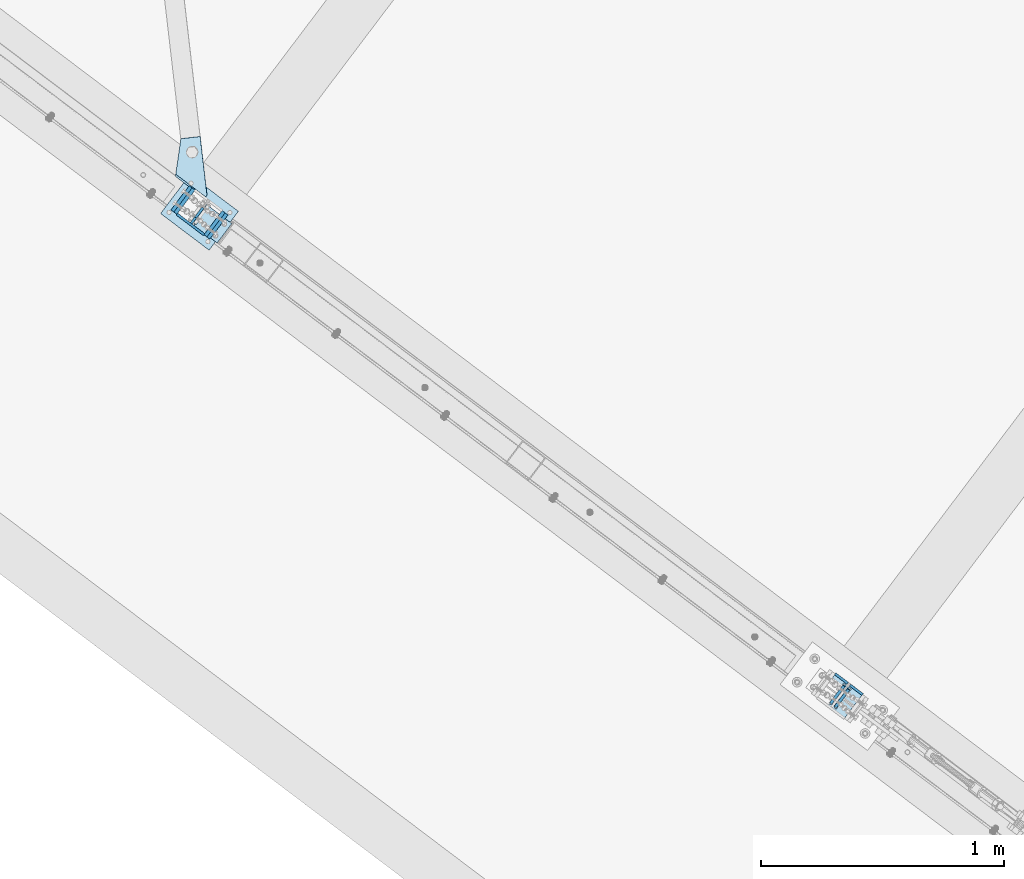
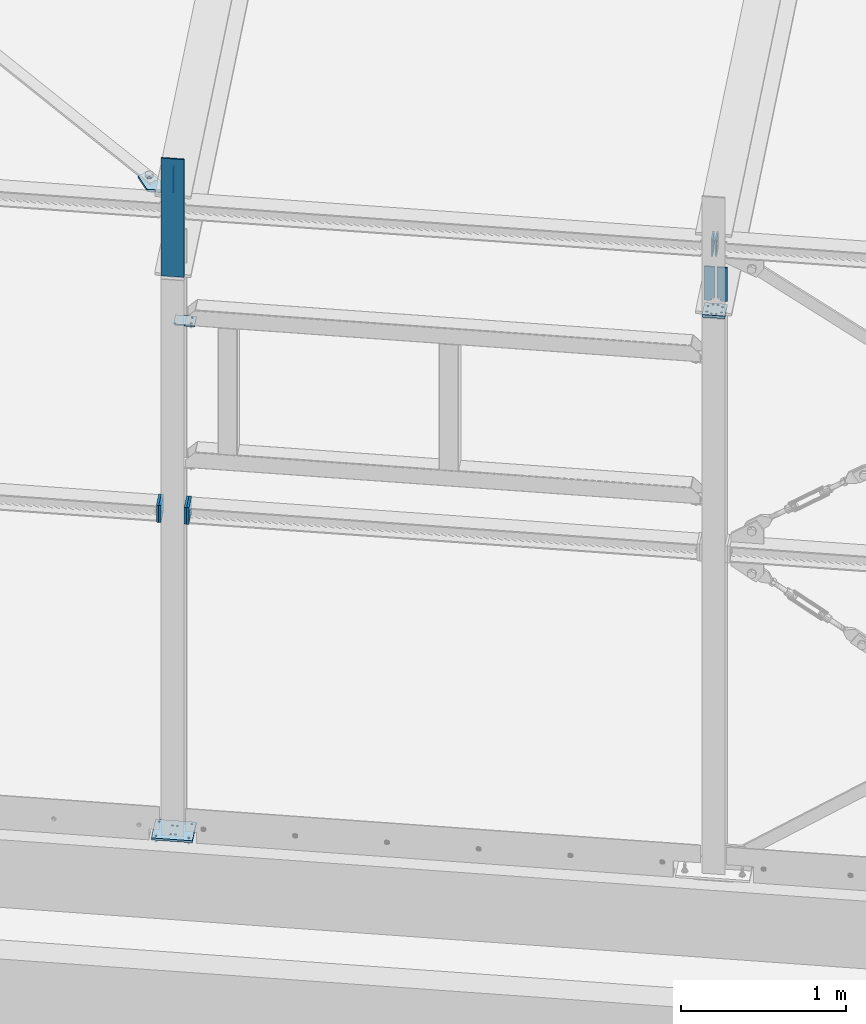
# One storey, part 50 of 476: 14 plates, 56 openings.
"""IFC2X3 building model written with IfcOpenShell, lengths in millimetres."""

from ifc_helpers import new_model, entity, si_unit, converted_unit, point, frame, frame_2d, origin, origin_with_axes, origin_2d_with_axis, place, context, project, spatial, polyline, circle_curve, line_curve, trimmed, segment, composite_curve, circle, outline, extrude, material, layer, layer_set, element, save


model = new_model("IFC2X3")

# Units and contexts
model_context = context("Model", 3, precision=1e-09, world=origin_with_axes())
ifc_project = project(units=[si_unit("LENGTHUNIT", "METRE", prefix="MILLI"), si_unit("AREAUNIT", "SQUARE_METRE"), si_unit("VOLUMEUNIT", "CUBIC_METRE"), converted_unit("PLANEANGLEUNIT", "DEGREE", entity("IfcPlaneAngleMeasure", 0.01745329), si_unit("PLANEANGLEUNIT", "RADIAN"), dimensions=[0, 0, 0, 0, 0, 0, 0])], contexts=[model_context])

# Site, building, storey
site_placement = place(None, origin_with_axes())
site = spatial("IfcSite", under=ifc_project, at=site_placement, Name="mKR Teilneubau & Sanierung BA1 - Ostfildern", CompositionType="ELEMENT")
building_placement = place(site_placement, origin_with_axes())
building = spatial("IfcBuilding", under=site, at=building_placement, Name="Struktur 1", CompositionType="ELEMENT")
storey_placement = place(building_placement, origin_with_axes())
storey = spatial("IfcBuildingStorey", under=building, at=storey_placement, Name="Default Storey", CompositionType="ELEMENT", Elevation=0.0)

# Plate, openings
ifc_material = material(Name="S235JR")
ifc_layer_1 = layer(ifc_material, 15.0)
ifc_layer_set_1 = layer_set([ifc_layer_1], Name="S235JR")
plate_1_placement = place(None, frame((2899.091449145, -1897.543749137, 5216.096648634), z_axis=(-0.018098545, -0.02396011, 0.999549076), x_axis=(0.602462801, 0.797581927, 0.030027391)))
plate_1 = element("IfcPlate", 1, at=plate_1_placement, inside=storey, material=ifc_layer_set_1, Name="-", ObjectType="-", context=model_context, shape_type="SweptSolid", body=[
    extrude(outline(polyline([(0.0, 0.0), (16.761939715, 0.0), (192.636873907, 167.974256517), (137.382787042, 225.827096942), (1.572e-05, 149.999963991), (0.0, 0.0)])), origin_with_axes(), (0.0, 0.0, -1.0), 15.0),
])
opening_1_placement = place(plate_1_placement, frame((0.0, -0.000999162, 0.0), z_axis=(1.05e-07, 1.0, 0.0), x_axis=(1.0, -1.05e-07, 0.0)))
element("IfcOpeningElement", 2, at=opening_1_placement, cuts=plate_1, ObjectType="Opening", context=model_context, shape_type="SweptSolid", body=[
    extrude(outline(polyline([(0.0, 0.0), (8.0, 0.0), (0.0, 8.0), (0.0, 0.0)])), origin(), (0.0, 0.0, 1.0), 154.437489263),
])
opening_2_placement = place(plate_1_placement, frame((121.62025065, 155.460173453, -15.499849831), z_axis=(-7.613e-06, -7.271e-06, 1.0), x_axis=(-0.723163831, -0.690676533, -1.0527e-05)))
element("IfcOpeningElement", 3, at=opening_2_placement, cuts=plate_1, ObjectType="Opening", context=model_context, shape_type="SweptSolid", body=[
    extrude(circle(Radius=14.501, at=origin_2d_with_axis()), origin(), (0.0, 0.0, 1.0), 16.000000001),
])

ifc_layer_2 = layer(ifc_material, 10.0)
ifc_layer_set_2 = layer_set([ifc_layer_2], Name="S235JR")
plate_2_placement = place(None, frame((2896.486477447, -1939.136934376, 5472.548796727), z_axis=(0.798017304, -0.602634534, 0.0), x_axis=(-0.602634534, -0.798017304, 0.0)))
plate_2 = element("IfcPlate", 4, at=plate_2_placement, inside=storey, material=ifc_layer_set_2, Name="-", ObjectType="-", context=model_context, shape_type="SweptSolid", body=[
    extrude(outline(polyline([(0.0, 0.0), (80.0, 0.0), (80.0, 200.0), (0.0, 197.595559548), (0.0, 0.0)])), origin_with_axes(), (0.0, 0.0, -1.0), 10.0),
])
opening_3_placement = place(plate_2_placement, frame((0.0, 0.0, 0.01), z_axis=(0.0, 0.0, 1.0), x_axis=(1.0, 0.0, 0.0)))
element("IfcOpeningElement", 5, at=opening_3_placement, cuts=plate_2, ObjectType="Opening", context=model_context, shape_type="SweptSolid", body=[
    extrude(outline(polyline([(0.0, 0.0), (50.0, 0.0), (0.0, 50.0), (0.0, 0.0)])), origin(), (0.0, 0.0, -1.0), 10.02),
])
opening_4_placement = place(plate_2_placement, frame((80.0, 200.0, 0.01), z_axis=(0.0, 0.0, 1.0), x_axis=(-0.999548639, -0.03004194, 0.0)))
element("IfcOpeningElement", 6, at=opening_4_placement, cuts=plate_2, ObjectType="Opening", context=model_context, shape_type="SweptSolid", body=[
    extrude(outline(polyline([(0.0, 0.0), (20.0, 0.0), (0.600838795, 19.990972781), (0.0, 0.0)])), origin(), (0.0, 0.0, -1.0), 10.02),
])

plate_3_placement = place(None, frame((2955.002450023, -2083.58972937, 4320.0), z_axis=(0.0, 0.0, -1.0), x_axis=(-0.797941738, 0.602734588, 0.0)))
plate_3 = element("IfcPlate", 7, at=plate_3_placement, inside=storey, material=ifc_layer_set_2, Name="-", ObjectType="-", context=model_context, shape_type="SweptSolid", body=[
    extrude(outline(polyline([(5.0, 0.0), (135.0, 0.0), (135.0, 100.0), (5.0, 100.0), (5.0, 0.0)])), origin_with_axes(), (0.0, 0.0, 1.0), 10.0),
])
opening_5_placement = place(plate_3_placement, frame((0.0, 0.0, -0.01), z_axis=(0.0, 0.0, 1.0), x_axis=(1.0, 0.0, 0.0)))
element("IfcOpeningElement", 8, at=opening_5_placement, cuts=plate_3, ObjectType="Opening", context=model_context, shape_type="SweptSolid", body=[
    extrude(outline(composite_curve([segment(trimmed(line_curve((135.0, 0.0), (0.0, 1.0), 13.0), [point((135.0, 0.0))], [point((135.0, 13.0))], True, "CARTESIAN"), True, "CONTINUOUS"), segment(trimmed(circle_curve(frame_2d((122.0, 13.0), x_axis=(-1.0, 0.0)), 13.0), [point((135.0, 13.0))], [point((122.0, 0.0))], False, "CARTESIAN"), True, "CONTINUOUS"), segment(trimmed(line_curve((122.0, 0.0), (1.0, 0.0), 13.0), [point((122.0, 0.0))], [point((135.0, 0.0))], True, "CARTESIAN"), True, "CONTINUOUS")], self_intersect=False)), origin(), (0.0, 0.0, 1.0), 10.02),
])
opening_6_placement = place(plate_3_placement, frame((124.0, 10.5, -0.5), z_axis=(0.0, 0.0, 1.0), x_axis=(0.0, -1.0, 0.0)))
element("IfcOpeningElement", 9, at=opening_6_placement, cuts=plate_3, ObjectType="Opening", context=model_context, shape_type="SweptSolid", body=[
    extrude(circle(Radius=5.001, at=origin_2d_with_axis()), origin(), (0.0, 0.0, 1.0), 11.0),
])
opening_7_placement = place(plate_3_placement, frame((28.75, 50.0, 10.5), z_axis=(0.0, 0.0, -1.0), x_axis=(-1.0, 0.0, 0.0)))
element("IfcOpeningElement", 10, at=opening_7_placement, cuts=plate_3, ObjectType="Opening", context=model_context, shape_type="SweptSolid", body=[
    extrude(circle(Radius=7.001, at=frame_2d((0.0, 30.0), x_axis=(1.0, 0.0))), origin(), (0.0, 0.0, 1.0), 11.0),
])
opening_8_placement = place(plate_3_placement, frame((28.75, 50.0, 10.5), z_axis=(0.0, 0.0, -1.0), x_axis=(-1.0, 0.0, 0.0)))
element("IfcOpeningElement", 11, at=opening_8_placement, cuts=plate_3, ObjectType="Opening", context=model_context, shape_type="SweptSolid", body=[
    extrude(circle(Radius=7.001, at=frame_2d((0.0, -30.0), x_axis=(1.0, 0.0))), origin(), (0.0, 0.0, 1.0), 11.0),
])

plate_4_placement = place(None, frame((2838.874051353, -1799.741206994, 540.0), z_axis=(0.0, 0.0, -1.0), x_axis=(0.797941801, -0.602734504, 0.0)))
plate_4 = element("IfcPlate", 12, at=plate_4_placement, inside=storey, material=ifc_layer_set_1, Name="Baseplate", ObjectType="Baseplate", context=model_context, shape_type="SweptSolid", body=[
    extrude(outline(polyline([(0.0, 0.0), (250.0, 0.0), (250.0, 200.0), (0.0, 200.0), (0.0, 0.0)])), origin_with_axes(), (0.0, 0.0, 1.0), 15.0),
])
opening_9_placement = place(plate_4_placement, frame((139.75, 146.0, 15.5), z_axis=(0.0, 0.0, -1.0), x_axis=(0.0, 1.0, 0.0)))
element("IfcOpeningElement", 13, at=opening_9_placement, cuts=plate_4, ObjectType="Opening", context=model_context, shape_type="SweptSolid", body=[
    extrude(circle(Radius=6.001, at=origin_2d_with_axis()), origin(), (0.0, 0.0, 1.0), 16.0),
])
opening_10_placement = place(plate_4_placement, frame((139.75, 54.0, 15.5), z_axis=(0.0, 0.0, -1.0), x_axis=(0.0, 1.0, 0.0)))
element("IfcOpeningElement", 14, at=opening_10_placement, cuts=plate_4, ObjectType="Opening", context=model_context, shape_type="SweptSolid", body=[
    extrude(circle(Radius=6.001, at=origin_2d_with_axis()), origin(), (0.0, 0.0, 1.0), 16.0),
])
opening_11_placement = place(plate_4_placement, frame((110.25, 54.0, 15.5), z_axis=(0.0, 0.0, -1.0), x_axis=(0.0, 1.0, 0.0)))
element("IfcOpeningElement", 15, at=opening_11_placement, cuts=plate_4, ObjectType="Opening", context=model_context, shape_type="SweptSolid", body=[
    extrude(circle(Radius=6.001, at=origin_2d_with_axis()), origin(), (0.0, 0.0, 1.0), 16.0),
])
opening_12_placement = place(plate_4_placement, frame((110.25, 146.0, 15.5), z_axis=(0.0, 0.0, -1.0), x_axis=(0.0, 1.0, 0.0)))
element("IfcOpeningElement", 16, at=opening_12_placement, cuts=plate_4, ObjectType="Opening", context=model_context, shape_type="SweptSolid", body=[
    extrude(circle(Radius=6.001, at=origin_2d_with_axis()), origin(), (0.0, 0.0, 1.0), 16.0),
])
opening_13_placement = place(plate_4_placement, frame((125.0, 100.0, 15.5), z_axis=(0.0, 0.0, -1.0), x_axis=(1.0, 0.0, 0.0)))
element("IfcOpeningElement", 17, at=opening_13_placement, cuts=plate_4, ObjectType="Opening", context=model_context, shape_type="SweptSolid", body=[
    extrude(circle(Radius=6.001, at=frame_2d((100.0, 75.0), x_axis=(1.0, 0.0))), origin(), (0.0, 0.0, 1.0), 16.0),
])
opening_14_placement = place(plate_4_placement, frame((125.0, 100.0, 15.5), z_axis=(0.0, 0.0, -1.0), x_axis=(1.0, 0.0, 0.0)))
element("IfcOpeningElement", 18, at=opening_14_placement, cuts=plate_4, ObjectType="Opening", context=model_context, shape_type="SweptSolid", body=[
    extrude(circle(Radius=6.001, at=frame_2d((-100.0, 75.0), x_axis=(1.0, 0.0))), origin(), (0.0, 0.0, 1.0), 16.0),
])
opening_15_placement = place(plate_4_placement, frame((125.0, 100.0, 15.5), z_axis=(0.0, 0.0, -1.0), x_axis=(1.0, 0.0, 0.0)))
element("IfcOpeningElement", 19, at=opening_15_placement, cuts=plate_4, ObjectType="Opening", context=model_context, shape_type="SweptSolid", body=[
    extrude(circle(Radius=6.001, at=frame_2d((100.0, -75.0), x_axis=(1.0, 0.0))), origin(), (0.0, 0.0, 1.0), 16.0),
])
opening_16_placement = place(plate_4_placement, frame((125.0, 100.0, 15.5), z_axis=(0.0, 0.0, -1.0), x_axis=(1.0, 0.0, 0.0)))
element("IfcOpeningElement", 20, at=opening_16_placement, cuts=plate_4, ObjectType="Opening", context=model_context, shape_type="SweptSolid", body=[
    extrude(circle(Radius=6.001, at=frame_2d((-100.0, -75.0), x_axis=(1.0, 0.0))), origin(), (0.0, 0.0, 1.0), 16.0),
])

plate_5_placement = place(None, frame((2798.548977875, -1894.603972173, 2912.000000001), z_axis=(0.797941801, -0.602734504, 0.0), x_axis=(0.0, 0.0, -1.0)))
plate_5 = element("IfcPlate", 21, at=plate_5_placement, inside=storey, material=ifc_layer_set_1, Name="Endplate#1", ObjectType="Endplate#1", context=model_context, shape_type="SweptSolid", body=[
    extrude(outline(polyline([(-62.0, -62.0), (62.0, -62.0), (62.0, 62.0), (-62.0, 62.0), (-62.0, -62.0)])), origin_with_axes(), (0.0, 0.0, 1.0), 15.0),
])
opening_17_placement = place(plate_5_placement, frame((37.0, -14.5, 15.5), z_axis=(0.0, 0.0, -1.0), x_axis=(1.0, 0.0, 0.0)))
element("IfcOpeningElement", 22, at=opening_17_placement, cuts=plate_5, ObjectType="Opening", context=model_context, shape_type="SweptSolid", body=[
    extrude(circle(Radius=6.001, at=origin_2d_with_axis()), origin(), (0.0, 0.0, 1.0), 16.0),
])
opening_18_placement = place(plate_5_placement, frame((-37.0, -14.5, 15.5), z_axis=(0.0, 0.0, -1.0), x_axis=(1.0, 0.0, 0.0)))
element("IfcOpeningElement", 23, at=opening_18_placement, cuts=plate_5, ObjectType="Opening", context=model_context, shape_type="SweptSolid", body=[
    extrude(circle(Radius=6.001, at=origin_2d_with_axis()), origin(), (0.0, 0.0, 1.0), 16.0),
])
opening_19_placement = place(plate_5_placement, frame((-37.0, 14.5, 15.5), z_axis=(0.0, 0.0, -1.0), x_axis=(1.0, 0.0, 0.0)))
element("IfcOpeningElement", 24, at=opening_19_placement, cuts=plate_5, ObjectType="Opening", context=model_context, shape_type="SweptSolid", body=[
    extrude(circle(Radius=6.001, at=origin_2d_with_axis()), origin(), (0.0, 0.0, 1.0), 16.0),
])
opening_20_placement = place(plate_5_placement, frame((37.0, 14.5, 15.5), z_axis=(0.0, 0.0, -1.0), x_axis=(1.0, 0.0, 0.0)))
element("IfcOpeningElement", 25, at=opening_20_placement, cuts=plate_5, ObjectType="Opening", context=model_context, shape_type="SweptSolid", body=[
    extrude(circle(Radius=6.001, at=origin_2d_with_axis()), origin(), (0.0, 0.0, 1.0), 16.0),
])
opening_21_placement = place(plate_5_placement, frame((0.0, 30.0, 15.5), z_axis=(0.0, 0.0, -1.0), x_axis=(-1.0, 0.0, 0.0)))
element("IfcOpeningElement", 26, at=opening_21_placement, cuts=plate_5, ObjectType="Opening", context=model_context, shape_type="SweptSolid", body=[
    extrude(circle(Radius=7.001, at=origin_2d_with_axis()), origin(), (0.0, 0.0, 1.0), 16.0),
])
opening_22_placement = place(plate_5_placement, frame((0.0, -30.0, 15.5), z_axis=(0.0, 0.0, -1.0), x_axis=(0.0, -1.0, 0.0)))
element("IfcOpeningElement", 27, at=opening_22_placement, cuts=plate_5, ObjectType="Opening", context=model_context, shape_type="SweptSolid", body=[
    extrude(circle(Radius=7.001, at=origin_2d_with_axis()), origin(), (0.0, 0.0, 1.0), 16.0),
])

plate_6_placement = place(None, frame((2822.487399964, -1912.685784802, 2912.000000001), z_axis=(-0.797941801, 0.602734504, 0.0), x_axis=(0.602734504, 0.797941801, 0.0)))
plate_6 = element("IfcPlate", 28, at=plate_6_placement, inside=storey, material=ifc_layer_set_1, Name="T-plate", ObjectType="T-plate", context=model_context, shape_type="SweptSolid", body=[
    extrude(outline(polyline([(-62.0, -62.0), (62.0, -62.0), (62.0, 62.0), (-62.0, 62.0), (-62.0, -62.0)])), origin_with_axes(), (0.0, 0.0, 1.0), 15.0),
])
opening_23_placement = place(plate_6_placement, frame((-30.000278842, 0.0, -0.5), z_axis=(0.0, 0.0, 1.0), x_axis=(-1.0, 0.0, 0.0)))
element("IfcOpeningElement", 29, at=opening_23_placement, cuts=plate_6, ObjectType="Opening", context=model_context, shape_type="SweptSolid", body=[
    extrude(circle(Radius=7.001, at=origin_2d_with_axis()), origin(), (0.0, 0.0, 1.0), 16.0),
])
opening_24_placement = place(plate_6_placement, frame((29.999721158, 0.0, -0.5), z_axis=(0.0, 0.0, 1.0), x_axis=(0.0, -1.0, 0.0)))
element("IfcOpeningElement", 30, at=opening_24_placement, cuts=plate_6, ObjectType="Opening", context=model_context, shape_type="SweptSolid", body=[
    extrude(circle(Radius=7.001, at=origin_2d_with_axis()), origin(), (0.0, 0.0, 1.0), 16.0),
])

plate_7_placement = place(None, frame((2958.137325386, -2015.150889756, 2912.000000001), z_axis=(-0.797941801, 0.602734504, 0.0), x_axis=(0.0, 0.0, -1.0)))
plate_7 = element("IfcPlate", 31, at=plate_7_placement, inside=storey, material=ifc_layer_set_1, Name="Endplate#1", ObjectType="Endplate#1", context=model_context, shape_type="SweptSolid", body=[
    extrude(outline(polyline([(-62.0, -62.0), (62.0, -62.0), (62.0, 62.0), (-62.0, 62.0), (-62.0, -62.0)])), origin_with_axes(), (0.0, 0.0, 1.0), 15.0),
])
opening_25_placement = place(plate_7_placement, frame((37.0, 14.5, 15.5), z_axis=(0.0, 0.0, -1.0), x_axis=(-1.0, 0.0, 0.0)))
element("IfcOpeningElement", 32, at=opening_25_placement, cuts=plate_7, ObjectType="Opening", context=model_context, shape_type="SweptSolid", body=[
    extrude(circle(Radius=6.001, at=origin_2d_with_axis()), origin(), (0.0, 0.0, 1.0), 16.0),
])
opening_26_placement = place(plate_7_placement, frame((-37.0, 14.5, 15.5), z_axis=(0.0, 0.0, -1.0), x_axis=(-1.0, 0.0, 0.0)))
element("IfcOpeningElement", 33, at=opening_26_placement, cuts=plate_7, ObjectType="Opening", context=model_context, shape_type="SweptSolid", body=[
    extrude(circle(Radius=6.001, at=origin_2d_with_axis()), origin(), (0.0, 0.0, 1.0), 16.0),
])
opening_27_placement = place(plate_7_placement, frame((-37.0, -14.5, 15.5), z_axis=(0.0, 0.0, -1.0), x_axis=(-1.0, 0.0, 0.0)))
element("IfcOpeningElement", 34, at=opening_27_placement, cuts=plate_7, ObjectType="Opening", context=model_context, shape_type="SweptSolid", body=[
    extrude(circle(Radius=6.001, at=origin_2d_with_axis()), origin(), (0.0, 0.0, 1.0), 16.0),
])
opening_28_placement = place(plate_7_placement, frame((37.0, -14.5, 15.5), z_axis=(0.0, 0.0, -1.0), x_axis=(-1.0, 0.0, 0.0)))
element("IfcOpeningElement", 35, at=opening_28_placement, cuts=plate_7, ObjectType="Opening", context=model_context, shape_type="SweptSolid", body=[
    extrude(circle(Radius=6.001, at=origin_2d_with_axis()), origin(), (0.0, 0.0, 1.0), 16.0),
])
opening_29_placement = place(plate_7_placement, frame((0.0, 30.0, 15.5), z_axis=(0.0, 0.0, -1.0), x_axis=(-1.0, 0.0, 0.0)))
element("IfcOpeningElement", 36, at=opening_29_placement, cuts=plate_7, ObjectType="Opening", context=model_context, shape_type="SweptSolid", body=[
    extrude(circle(Radius=7.001, at=origin_2d_with_axis()), origin(), (0.0, 0.0, 1.0), 16.0),
])
opening_30_placement = place(plate_7_placement, frame((0.0, -30.0, 15.5), z_axis=(0.0, 0.0, -1.0), x_axis=(0.0, -1.0, 0.0)))
element("IfcOpeningElement", 37, at=opening_30_placement, cuts=plate_7, ObjectType="Opening", context=model_context, shape_type="SweptSolid", body=[
    extrude(circle(Radius=7.001, at=origin_2d_with_axis()), origin(), (0.0, 0.0, 1.0), 16.0),
])

plate_8_placement = place(None, frame((2934.199252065, -1997.068615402, 2912.000000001), z_axis=(0.797941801, -0.602734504, 0.0), x_axis=(-0.602734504, -0.797941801, 0.0)))
plate_8 = element("IfcPlate", 38, at=plate_8_placement, inside=storey, material=ifc_layer_set_1, Name="T-plate", ObjectType="T-plate", context=model_context, shape_type="SweptSolid", body=[
    extrude(outline(polyline([(-62.0, -62.0), (62.0, -62.0), (62.0, 62.0), (-62.0, 62.0), (-62.0, -62.0)])), origin_with_axes(), (0.0, 0.0, 1.0), 15.0),
])
opening_31_placement = place(plate_8_placement, frame((-29.999700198, 0.0, -0.5), z_axis=(0.0, 0.0, 1.0), x_axis=(-1.0, 0.0, 0.0)))
element("IfcOpeningElement", 39, at=opening_31_placement, cuts=plate_8, ObjectType="Opening", context=model_context, shape_type="SweptSolid", body=[
    extrude(circle(Radius=7.001, at=origin_2d_with_axis()), origin(), (0.0, 0.0, 1.0), 16.0),
])
opening_32_placement = place(plate_8_placement, frame((30.000299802, 0.0, -0.5), z_axis=(0.0, 0.0, 1.0), x_axis=(0.0, -1.0, 0.0)))
element("IfcOpeningElement", 40, at=opening_32_placement, cuts=plate_8, ObjectType="Opening", context=model_context, shape_type="SweptSolid", body=[
    extrude(circle(Radius=7.001, at=origin_2d_with_axis()), origin(), (0.0, 0.0, 1.0), 16.0),
])

# Plate
plate_9_placement = place(None, frame((2788.432900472, -1957.769496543, 4677.27785786), z_axis=(-0.602734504, -0.797941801, 0.0), x_axis=(0.797941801, -0.602734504, 0.0)))
element("IfcPlate", 41, at=plate_9_placement, inside=storey, material=ifc_layer_set_2, Name="Coverplate", ObjectType="Coverplate", context=model_context, shape_type="SweptSolid", body=[
    extrude(outline(polyline([(0.0, 0.0), (140.0, 0.0), (140.0, 870.270938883), (0.0, 870.270938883), (0.0, 0.0)])), origin_with_axes(), (0.0, 0.0, 1.0), 10.0),
])

# Plate, openings
ifc_layer_3 = layer(ifc_material, 20.0)
ifc_layer_set_3 = layer_set([ifc_layer_3], Name="S235JR")
plate_10_placement = place(None, frame((5418.625840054, -3950.784917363, 4652.118481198), z_axis=(-0.018107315, -0.023971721, 0.999548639), x_axis=(0.797941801, -0.602734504, 0.0)))
plate_10 = element("IfcPlate", 42, at=plate_10_placement, inside=storey, material=ifc_layer_set_3, Name="Endplate", ObjectType="Endplate", context=model_context, shape_type="SweptSolid", body=[
    extrude(outline(polyline([(0.0, 0.0), (140.0, 0.0), (140.0, 123.060058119), (0.0, 123.060058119), (0.0, 0.0)])), origin_with_axes(), (0.0, 0.0, 1.0), 20.0),
])
opening_33_placement = place(plate_10_placement, frame((84.75, 15.503838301, 20.5), z_axis=(0.0, 0.0, -1.0), x_axis=(0.0, 1.0, 0.0)))
element("IfcOpeningElement", 43, at=opening_33_placement, cuts=plate_10, ObjectType="Opening", context=model_context, shape_type="SweptSolid", body=[
    extrude(circle(Radius=6.001, at=origin_2d_with_axis()), origin(), (0.0, 0.0, 1.0), 21.0),
])
opening_34_placement = place(plate_10_placement, frame((84.75, 107.556219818, 20.5), z_axis=(0.0, 0.0, -1.0), x_axis=(0.0, 1.0, 0.0)))
element("IfcOpeningElement", 44, at=opening_34_placement, cuts=plate_10, ObjectType="Opening", context=model_context, shape_type="SweptSolid", body=[
    extrude(circle(Radius=6.001, at=origin_2d_with_axis()), origin(), (0.0, 0.0, 1.0), 21.0),
])
opening_35_placement = place(plate_10_placement, frame((55.25, 107.556219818, 20.5), z_axis=(0.0, 0.0, -1.0), x_axis=(0.0, 1.0, 0.0)))
element("IfcOpeningElement", 45, at=opening_35_placement, cuts=plate_10, ObjectType="Opening", context=model_context, shape_type="SweptSolid", body=[
    extrude(circle(Radius=6.001, at=origin_2d_with_axis()), origin(), (0.0, 0.0, 1.0), 21.0),
])
opening_36_placement = place(plate_10_placement, frame((55.25, 15.503838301, 20.5), z_axis=(0.0, 0.0, -1.0), x_axis=(0.0, 1.0, 0.0)))
element("IfcOpeningElement", 46, at=opening_36_placement, cuts=plate_10, ObjectType="Opening", context=model_context, shape_type="SweptSolid", body=[
    extrude(circle(Radius=6.001, at=origin_2d_with_axis()), origin(), (0.0, 0.0, 1.0), 21.0),
])
opening_37_placement = place(plate_10_placement, frame((107.999, 89.03, -0.5), z_axis=(0.0, 0.0, -1.0), x_axis=(-1.0, 0.0, 0.0)))
element("IfcOpeningElement", 47, at=opening_37_placement, cuts=plate_10, ObjectType="Opening", context=model_context, shape_type="SweptSolid", body=[
    extrude(circle(Radius=7.001, at=frame_2d((-7.001, 0.0), x_axis=(1.0, 0.0))), origin(), (0.0, 0.0, -1.0), 21.0),
])
opening_38_placement = place(plate_10_placement, frame((17.999, 89.03, -0.5), z_axis=(0.0, 0.0, -1.0), x_axis=(-1.0, 0.0, 0.0)))
element("IfcOpeningElement", 48, at=opening_38_placement, cuts=plate_10, ObjectType="Opening", context=model_context, shape_type="SweptSolid", body=[
    extrude(circle(Radius=7.001, at=frame_2d((-7.001, 0.0), x_axis=(1.0, 0.0))), origin(), (0.0, 0.0, -1.0), 21.0),
])
opening_39_placement = place(plate_10_placement, frame((17.999, 34.03, -0.5), z_axis=(0.0, 0.0, -1.0), x_axis=(-1.0, 0.0, 0.0)))
element("IfcOpeningElement", 49, at=opening_39_placement, cuts=plate_10, ObjectType="Opening", context=model_context, shape_type="SweptSolid", body=[
    extrude(circle(Radius=7.001, at=frame_2d((-7.001, 0.0), x_axis=(1.0, 0.0))), origin(), (0.0, 0.0, -1.0), 21.0),
])
opening_40_placement = place(plate_10_placement, frame((107.999, 34.03, -0.5), z_axis=(0.0, 0.0, -1.0), x_axis=(-1.0, 0.0, 0.0)))
element("IfcOpeningElement", 50, at=opening_40_placement, cuts=plate_10, ObjectType="Opening", context=model_context, shape_type="SweptSolid", body=[
    extrude(circle(Radius=7.001, at=frame_2d((-7.001, 0.0), x_axis=(1.0, 0.0))), origin(), (0.0, 0.0, -1.0), 21.0),
])

plate_11_placement = place(None, frame((5540.818147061, -3895.200992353, 4696.483942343), z_axis=(0.602734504, 0.797941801, 0.0), x_axis=(-0.797941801, 0.602734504, 0.0)))
plate_11 = element("IfcPlate", 51, at=plate_11_placement, inside=storey, material=ifc_layer_set_2, Name="Stiffener#2", ObjectType="Stiffener#2", context=model_context, shape_type="SweptSolid", body=[
    extrude(outline(polyline([(0.0, 0.0), (65.0, 0.0), (65.0, 250.0), (0.0, 250.0), (0.0, 0.0)])), origin_with_axes(), (0.0, 0.0, 1.0), 10.0),
])
opening_41_placement = place(plate_11_placement, frame((0.0, 0.0, -0.01), z_axis=(0.0, 0.0, 1.0), x_axis=(1.0, 0.0, 0.0)))
element("IfcOpeningElement", 52, at=opening_41_placement, cuts=plate_11, ObjectType="Opening", context=model_context, shape_type="SweptSolid", body=[
    extrude(outline(composite_curve([segment(trimmed(line_curve((0.0, 0.0), (1.0, 0.0), 25.0), [point((0.0, 0.0))], [point((25.0, 0.0))], True, "CARTESIAN"), True, "CONTINUOUS"), segment(trimmed(circle_curve(frame_2d((25.0, 25.0), x_axis=(-1.0, 0.0)), 25.0), [point((25.0, 0.0))], [point((0.0, 25.0))], False, "CARTESIAN"), True, "CONTINUOUS"), segment(trimmed(line_curve((0.0, 25.0), (0.0, -1.0), 25.0), [point((0.0, 25.0))], [point((0.0, 0.0))], True, "CARTESIAN"), True, "CONTINUOUS")], self_intersect=False)), origin(), (0.0, 0.0, 1.0), 10.02),
])
opening_42_placement = place(plate_11_placement, frame((24.0, 22.499322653, -0.5), z_axis=(0.0, 0.0, 1.0), x_axis=(0.0, -1.0, 0.0)))
element("IfcOpeningElement", 53, at=opening_42_placement, cuts=plate_11, ObjectType="Opening", context=model_context, shape_type="SweptSolid", body=[
    extrude(circle(Radius=7.001, at=frame_2d((7.0, -7.0), x_axis=(1.0, 0.0))), origin(), (0.0, 0.0, 1.0), 11.0),
])

plate_12_placement = place(None, frame((5602.259665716, -3941.611549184, 4696.483942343), z_axis=(0.602734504, 0.797941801, 0.0), x_axis=(-0.797941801, 0.602734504, 0.0)))
plate_12 = element("IfcPlate", 54, at=plate_12_placement, inside=storey, material=ifc_layer_set_2, Name="Stiffener#2", ObjectType="Stiffener#2", context=model_context, shape_type="SweptSolid", body=[
    extrude(outline(polyline([(0.0, 0.0), (65.0, 0.0), (65.0, 250.0), (0.0, 250.0), (0.0, 0.0)])), origin_with_axes(), (0.0, 0.0, 1.0), 10.0),
])
opening_43_placement = place(plate_12_placement, frame((0.0, 0.0, -0.01), z_axis=(0.0, 0.0, 1.0), x_axis=(1.0, 0.0, 0.0)))
element("IfcOpeningElement", 55, at=opening_43_placement, cuts=plate_12, ObjectType="Opening", context=model_context, shape_type="SweptSolid", body=[
    extrude(outline(composite_curve([segment(trimmed(line_curve((65.0, 0.0), (0.0, 1.0), 25.0), [point((65.0, 0.0))], [point((65.0, 25.0))], True, "CARTESIAN"), True, "CONTINUOUS"), segment(trimmed(circle_curve(frame_2d((40.0, 25.0), x_axis=(-1.0, 0.0)), 25.0), [point((65.0, 25.0))], [point((40.0, 0.0))], False, "CARTESIAN"), True, "CONTINUOUS"), segment(trimmed(line_curve((40.0, 0.0), (1.0, 0.0), 25.0), [point((40.0, 0.0))], [point((65.0, 0.0))], True, "CARTESIAN"), True, "CONTINUOUS")], self_intersect=False)), origin(), (0.0, 0.0, 1.0), 10.02),
])
opening_44_placement = place(plate_12_placement, frame((41.0, 22.499322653, -0.5), z_axis=(0.0, 0.0, 1.0), x_axis=(0.0, -1.0, 0.0)))
element("IfcOpeningElement", 56, at=opening_44_placement, cuts=plate_12, ObjectType="Opening", context=model_context, shape_type="SweptSolid", body=[
    extrude(circle(Radius=7.001, at=frame_2d((7.0, 7.0), x_axis=(1.0, 0.0))), origin(), (0.0, 0.0, 1.0), 11.0),
])

ifc_layer_4 = layer(ifc_material, 12.0)
ifc_layer_set_4 = layer_set([ifc_layer_4], Name="S235JR")
plate_13_placement = place(None, frame((5478.529813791, -3977.662614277, 5217.841301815), z_axis=(-0.797941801, 0.602734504, 0.0), x_axis=(0.602462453, 0.797581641, 0.030041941)))
plate_13 = element("IfcPlate", 57, at=plate_13_placement, inside=storey, material=ifc_layer_set_4, Name="Endplate", ObjectType="Endplate", context=model_context, shape_type="SweptSolid", body=[
    extrude(outline(polyline([(0.0, 0.0), (90.0, 0.0), (90.0, 124.0), (0.0, 124.0), (0.0, 0.0)])), origin_with_axes(), (0.0, 0.0, 1.0), 12.0),
])
opening_45_placement = place(plate_13_placement, frame((70.0, 62.0, -0.5), z_axis=(0.0, 0.0, 1.0), x_axis=(0.0, -1.0, 0.0)))
element("IfcOpeningElement", 58, at=opening_45_placement, cuts=plate_13, ObjectType="Opening", context=model_context, shape_type="SweptSolid", body=[
    extrude(circle(Radius=7.001, at=origin_2d_with_axis()), origin(), (0.0, 0.0, 1.0), 13.0),
])
opening_46_placement = place(plate_13_placement, frame((20.0, 62.0, -0.5), z_axis=(0.0, 0.0, 1.0), x_axis=(0.0, -1.0, 0.0)))
element("IfcOpeningElement", 59, at=opening_46_placement, cuts=plate_13, ObjectType="Opening", context=model_context, shape_type="SweptSolid", body=[
    extrude(circle(Radius=7.001, at=origin_2d_with_axis()), origin(), (0.0, 0.0, 1.0), 13.0),
])
opening_47_placement = place(plate_13_placement, frame((30.5, 99.0, -0.5), z_axis=(0.0, 0.0, 1.0), x_axis=(0.0, 1.0, 0.0)))
element("IfcOpeningElement", 60, at=opening_47_placement, cuts=plate_13, ObjectType="Opening", context=model_context, shape_type="SweptSolid", body=[
    extrude(circle(Radius=6.001, at=origin_2d_with_axis()), origin(), (0.0, 0.0, 1.0), 13.0),
])
opening_48_placement = place(plate_13_placement, frame((30.5, 25.0, -0.5), z_axis=(0.0, 0.0, 1.0), x_axis=(0.0, 1.0, 0.0)))
element("IfcOpeningElement", 61, at=opening_48_placement, cuts=plate_13, ObjectType="Opening", context=model_context, shape_type="SweptSolid", body=[
    extrude(circle(Radius=6.001, at=origin_2d_with_axis()), origin(), (0.0, 0.0, 1.0), 13.0),
])
opening_49_placement = place(plate_13_placement, frame((59.5, 25.0, -0.5), z_axis=(0.0, 0.0, 1.0), x_axis=(0.0, 1.0, 0.0)))
element("IfcOpeningElement", 62, at=opening_49_placement, cuts=plate_13, ObjectType="Opening", context=model_context, shape_type="SweptSolid", body=[
    extrude(circle(Radius=6.001, at=origin_2d_with_axis()), origin(), (0.0, 0.0, 1.0), 13.0),
])
opening_50_placement = place(plate_13_placement, frame((59.5, 99.0, -0.5), z_axis=(0.0, 0.0, 1.0), x_axis=(0.0, 1.0, 0.0)))
element("IfcOpeningElement", 63, at=opening_50_placement, cuts=plate_13, ObjectType="Opening", context=model_context, shape_type="SweptSolid", body=[
    extrude(circle(Radius=6.001, at=origin_2d_with_axis()), origin(), (0.0, 0.0, 1.0), 13.0),
])

plate_14_placement = place(None, frame((5542.326733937, -3913.113083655, 5220.545076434), z_axis=(0.797941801, -0.602734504, 0.0), x_axis=(-0.602462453, -0.797581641, -0.030041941)))
plate_14 = element("IfcPlate", 64, at=plate_14_placement, inside=storey, material=ifc_layer_set_4, Name="Endplate", ObjectType="Endplate", context=model_context, shape_type="SweptSolid", body=[
    extrude(outline(polyline([(0.0, 0.0), (90.0, 0.0), (90.0, 124.0), (0.0, 124.0), (0.0, 0.0)])), origin_with_axes(), (0.0, 0.0, 1.0), 12.0),
])
opening_51_placement = place(plate_14_placement, frame((69.999996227, 62.0, 12.5), z_axis=(0.0, 0.0, -1.0), x_axis=(0.0, -1.0, 0.0)))
element("IfcOpeningElement", 65, at=opening_51_placement, cuts=plate_14, ObjectType="Opening", context=model_context, shape_type="SweptSolid", body=[
    extrude(circle(Radius=7.001, at=origin_2d_with_axis()), origin(), (0.0, 0.0, 1.0), 13.0),
])
opening_52_placement = place(plate_14_placement, frame((19.999996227, 62.0, 12.5), z_axis=(0.0, 0.0, -1.0), x_axis=(0.0, -1.0, 0.0)))
element("IfcOpeningElement", 66, at=opening_52_placement, cuts=plate_14, ObjectType="Opening", context=model_context, shape_type="SweptSolid", body=[
    extrude(circle(Radius=7.001, at=origin_2d_with_axis()), origin(), (0.0, 0.0, 1.0), 13.0),
])
opening_53_placement = place(plate_14_placement, frame((59.5, 99.0, -0.5), z_axis=(0.0, 0.0, 1.0), x_axis=(0.0, -1.0, 0.0)))
element("IfcOpeningElement", 67, at=opening_53_placement, cuts=plate_14, ObjectType="Opening", context=model_context, shape_type="SweptSolid", body=[
    extrude(circle(Radius=6.001, at=origin_2d_with_axis()), origin(), (0.0, 0.0, 1.0), 13.0),
])
opening_54_placement = place(plate_14_placement, frame((59.5, 25.0, -0.5), z_axis=(0.0, 0.0, 1.0), x_axis=(0.0, -1.0, 0.0)))
element("IfcOpeningElement", 68, at=opening_54_placement, cuts=plate_14, ObjectType="Opening", context=model_context, shape_type="SweptSolid", body=[
    extrude(circle(Radius=6.001, at=origin_2d_with_axis()), origin(), (0.0, 0.0, 1.0), 13.0),
])
opening_55_placement = place(plate_14_placement, frame((30.5, 25.0, -0.5), z_axis=(0.0, 0.0, 1.0), x_axis=(0.0, -1.0, 0.0)))
element("IfcOpeningElement", 69, at=opening_55_placement, cuts=plate_14, ObjectType="Opening", context=model_context, shape_type="SweptSolid", body=[
    extrude(circle(Radius=6.001, at=origin_2d_with_axis()), origin(), (0.0, 0.0, 1.0), 13.0),
])
opening_56_placement = place(plate_14_placement, frame((30.5, 99.0, -0.5), z_axis=(0.0, 0.0, 1.0), x_axis=(0.0, -1.0, 0.0)))
element("IfcOpeningElement", 70, at=opening_56_placement, cuts=plate_14, ObjectType="Opening", context=model_context, shape_type="SweptSolid", body=[
    extrude(circle(Radius=6.001, at=origin_2d_with_axis()), origin(), (0.0, 0.0, 1.0), 13.0),
])

save(model, "model.ifc")
